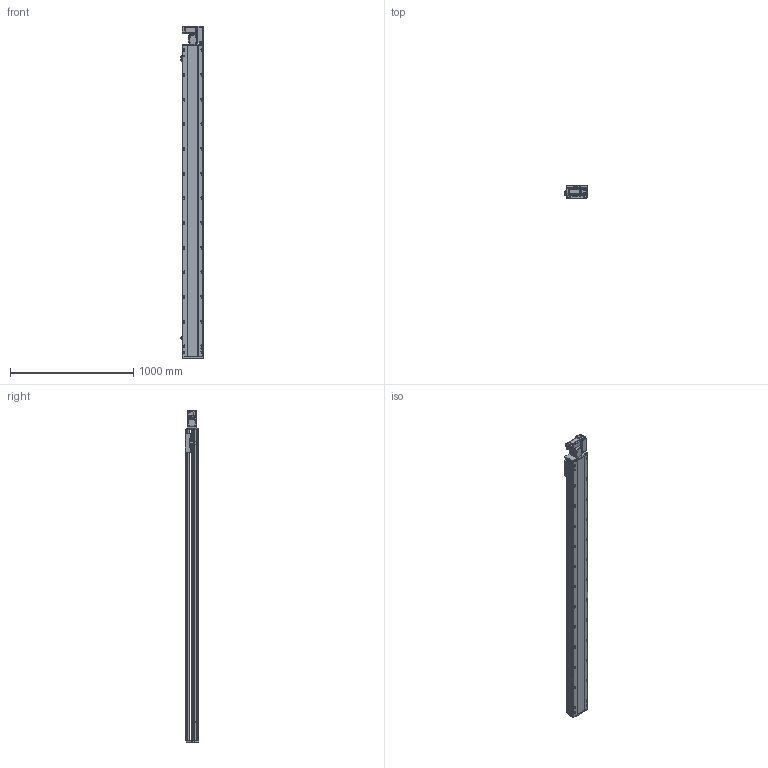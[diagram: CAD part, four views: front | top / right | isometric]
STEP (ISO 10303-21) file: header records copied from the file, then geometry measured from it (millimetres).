
FILE_DESCRIPTION (( 'STEP AP214' ), '1' );
FILE_NAME ('RTB17S-XX-2250-R-M40-C4.STEP', '2025-12-11T07:49:22', ( '' ), ( '' ), 'SwSTEP 2.0', 'SolidWorks 2018', '' );
FILE_SCHEMA (( 'AUTOMOTIVE_DESIGN' ));
Length unit declared in the file: millimetre
Products named in the file (14): 400W侜督萇儂^RTB17S-XX-XX-R-M40-C4; RTH13-BL-012覜茼え俋离^RTB17S-XX-XX-R-M40-C4; RTB17S-R-々湍釱蚾饜-400W^RTB17S-XX-XX-R-M40-C4; OMRON EE-SX672 传感器^RTB17S-XX-XX-R-M40-C4; RTB14-L-005P--轴承塑胶压盖^RTB17S-R-皮带座装配-400W_RTB17S-XX-XX-R-M40-C4; RTB14-L-008-M20--萇儂啣^RTB17S-R-々湍釱蚾饜-400W_RTB17S-XX-XX-R-M40-C4; RTB17S-L-001耜醱啣^RTB17S-XX-XX-R-M40-C4; RTB17S-L-004佪裝蹟譫蟀諉釱^RTB17S-XX-XX-R-M40-C4; RTB17S-L-014-T20--々湍釱^RTB17S-R-々湍釱蚾饜-400W_RTB17S-XX-XX-R-M40-C4; RTB17S-XX-2250-R-M40-C4; RTB14-L-018P^RTB17S-R-々湍釱蚾饜-400W_RTB17S-XX-XX-R-M40-C4; RTB17-R-011菁釱^RTB17S-XX-XX-R-M40-C4; RTB17S-L-007奻裔^RTB17S-XX-XX-R-M40-C4; RTB14-L-017P^RTB17S-R-々湍釱蚾饜-400W_RTB17S-XX-XX-R-M40-C4
Assembly tree (16 placements, depth 3):
  RTB17S-XX-2250-R-M40-C4
    RTB17-R-011菁釱^RTB17S-XX-XX-R-M40-C4
    RTB17S-L-007奻裔^RTB17S-XX-XX-R-M40-C4
    OMRON EE-SX672 传感器^RTB17S-XX-XX-R-M40-C4  x3
    RTB17S-L-001耜醱啣^RTB17S-XX-XX-R-M40-C4
    400W侜督萇儂^RTB17S-XX-XX-R-M40-C4
    RTB17S-L-004佪裝蹟譫蟀諉釱^RTB17S-XX-XX-R-M40-C4
    RTH13-BL-012覜茼え俋离^RTB17S-XX-XX-R-M40-C4
    RTB17S-R-々湍釱蚾饜-400W^RTB17S-XX-XX-R-M40-C4
      RTB17S-L-014-T20--々湍釱^RTB17S-R-々湍釱蚾饜-400W_RTB17S-XX-XX-R-M40-C4
      RTB14-L-005P--轴承塑胶压盖^RTB17S-R-皮带座装配-400W_RTB17S-XX-XX-R-M40-C4
      RTB14-L-008-M20--萇儂啣^RTB17S-R-々湍釱蚾饜-400W_RTB17S-XX-XX-R-M40-C4
      RTB14-L-017P^RTB17S-R-々湍釱蚾饜-400W_RTB17S-XX-XX-R-M40-C4  x2
      RTB14-L-018P^RTB17S-R-々湍釱蚾饜-400W_RTB17S-XX-XX-R-M40-C4
Bounding box: 183.5 x 108 x 2691 mm (x, y, z)
Volume: 22562754.5 mm3; surface area: 2611477.7 mm2
Topology: 15 solids, 15 shells, 2317 faces, 6465 edges, 4221 vertices
Faces by surface type: plane 1082, cylinder 787, bspline 301, cone 139, torus 8
Entity records: 68009 total; most frequent: CARTESIAN_POINT 19270, ORIENTED_EDGE 9774, DIRECTION 9026, EDGE_CURVE 4887, VERTEX_POINT 3209, AXIS2_PLACEMENT_3D 3139, VECTOR 2748, LINE 2748
